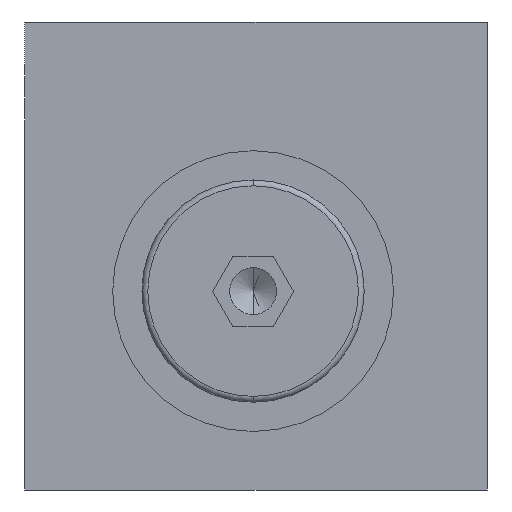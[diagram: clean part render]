
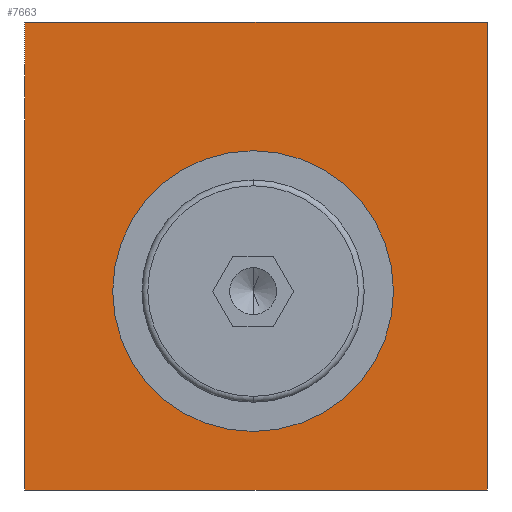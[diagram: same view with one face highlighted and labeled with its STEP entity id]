
A CAD part, left-side view. The second image highlights one B-rep face of the part: STEP entity #7663.
In plain terms, the highlighted planar face has unit normal (-1, 0, 0).
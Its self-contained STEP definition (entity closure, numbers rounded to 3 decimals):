
#217 = CARTESIAN_POINT ( 'NONE',  ( 0., 0.25, 9. ) ) ;
#366 = CARTESIAN_POINT ( 'NONE',  ( 0., 0.25, -3. ) ) ;
#586 = LINE ( 'NONE', #8309, #7467 ) ;
#623 = EDGE_CURVE ( 'NONE', #17519, #7179, #10190, .T. ) ;
#1579 = EDGE_LOOP ( 'NONE', ( #4815, #15331 ) ) ;
#1725 = DIRECTION ( 'NONE',  ( 0., 0., 1. ) ) ;
#1866 = AXIS2_PLACEMENT_3D ( 'NONE', #6515, #16163, #7908 ) ;
#1911 = LINE ( 'NONE', #16475, #5579 ) ;
#2027 = ORIENTED_EDGE ( 'NONE', *, *, #15035, .F. ) ;
#2169 = DIRECTION ( 'NONE',  ( 0., 0., 1. ) ) ;
#2273 = VERTEX_POINT ( 'NONE', #16994 ) ;
#3076 = AXIS2_PLACEMENT_3D ( 'NONE', #4938, #3571, #2169 ) ;
#3098 = LINE ( 'NONE', #10347, #6746 ) ;
#3372 = EDGE_CURVE ( 'NONE', #15853, #6377, #9071, .T. ) ;
#3387 = CARTESIAN_POINT ( 'NONE',  ( 0., -19.75, 20. ) ) ;
#3571 = DIRECTION ( 'NONE',  ( -1., 0., 0. ) ) ;
#3758 = DIRECTION ( 'NONE',  ( 0., -1., 0. ) ) ;
#4602 = ORIENTED_EDGE ( 'NONE', *, *, #3372, .F. ) ;
#4815 = ORIENTED_EDGE ( 'NONE', *, *, #623, .F. ) ;
#4938 = CARTESIAN_POINT ( 'NONE',  ( 0., 0.25, -3. ) ) ;
#5439 = VECTOR ( 'NONE', #3758, 1000. ) ;
#5579 = VECTOR ( 'NONE', #6811, 1000. ) ;
#5917 = EDGE_CURVE ( 'NONE', #7179, #17519, #13010, .T. ) ;
#6377 = VERTEX_POINT ( 'NONE', #3387 ) ;
#6414 = CARTESIAN_POINT ( 'NONE',  ( 0., 0.25, -15. ) ) ;
#6515 = CARTESIAN_POINT ( 'NONE',  ( 0., 19.75, -20. ) ) ;
#6746 = VECTOR ( 'NONE', #11835, 1000. ) ;
#6811 = DIRECTION ( 'NONE',  ( 0., 1., 0. ) ) ;
#7115 = FACE_OUTER_BOUND ( 'NONE', #11335, .T. ) ;
#7179 = VERTEX_POINT ( 'NONE', #6414 ) ;
#7467 = VECTOR ( 'NONE', #9709, 1000. ) ;
#7663 = ADVANCED_FACE ( 'NONE', ( #17680, #7115 ), #11915, .T. ) ;
#7908 = DIRECTION ( 'NONE',  ( 0., 0., 1. ) ) ;
#8309 = CARTESIAN_POINT ( 'NONE',  ( 0., -19.75, 20. ) ) ;
#9070 = VERTEX_POINT ( 'NONE', #17299 ) ;
#9071 = LINE ( 'NONE', #9283, #5439 ) ;
#9283 = CARTESIAN_POINT ( 'NONE',  ( 0., -19.75, 20. ) ) ;
#9509 = EDGE_CURVE ( 'NONE', #6377, #2273, #586, .T. ) ;
#9709 = DIRECTION ( 'NONE',  ( 0., 0., -1. ) ) ;
#9992 = DIRECTION ( 'NONE',  ( -1., 0., 0. ) ) ;
#10044 = CARTESIAN_POINT ( 'NONE',  ( 0., 19.75, 20. ) ) ;
#10190 = CIRCLE ( 'NONE', #3076, 12. ) ;
#10347 = CARTESIAN_POINT ( 'NONE',  ( 0., 19.75, 20. ) ) ;
#11335 = EDGE_LOOP ( 'NONE', ( #15627, #14421, #4602, #2027 ) ) ;
#11835 = DIRECTION ( 'NONE',  ( 0., 0., 1. ) ) ;
#11915 = PLANE ( 'NONE',  #1866 ) ;
#13010 = CIRCLE ( 'NONE', #14299, 12. ) ;
#14299 = AXIS2_PLACEMENT_3D ( 'NONE', #366, #9992, #1725 ) ;
#14421 = ORIENTED_EDGE ( 'NONE', *, *, #9509, .F. ) ;
#15035 = EDGE_CURVE ( 'NONE', #9070, #15853, #3098, .T. ) ;
#15331 = ORIENTED_EDGE ( 'NONE', *, *, #5917, .F. ) ;
#15627 = ORIENTED_EDGE ( 'NONE', *, *, #16291, .F. ) ;
#15853 = VERTEX_POINT ( 'NONE', #10044 ) ;
#16163 = DIRECTION ( 'NONE',  ( -1., 0., 0. ) ) ;
#16291 = EDGE_CURVE ( 'NONE', #2273, #9070, #1911, .T. ) ;
#16475 = CARTESIAN_POINT ( 'NONE',  ( 0., -19.75, -20. ) ) ;
#16994 = CARTESIAN_POINT ( 'NONE',  ( 0., -19.75, -20. ) ) ;
#17299 = CARTESIAN_POINT ( 'NONE',  ( 0., 19.75, -20. ) ) ;
#17519 = VERTEX_POINT ( 'NONE', #217 ) ;
#17680 = FACE_BOUND ( 'NONE', #1579, .T. ) ;
